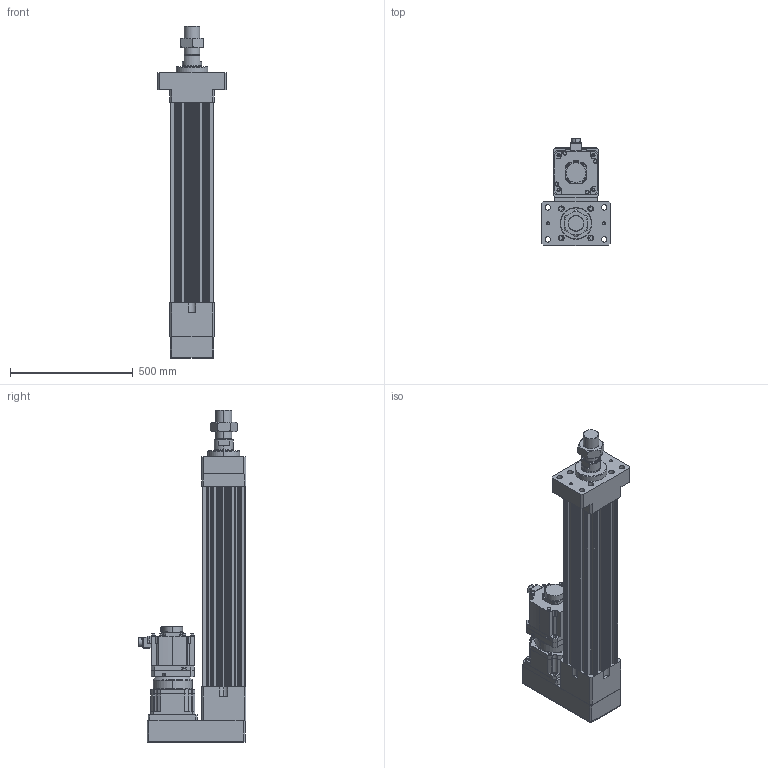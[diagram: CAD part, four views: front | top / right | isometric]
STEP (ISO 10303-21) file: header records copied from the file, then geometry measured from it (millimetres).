
FILE_DESCRIPTION (( 'STEP AP203' ), '1' );
FILE_NAME ('HES180HS-P500-W050G00-M-FMA.STEP', '2023-02-01T08:18:25', ( 'tms' ), ( '' ), 'SwSTEP 2.0', 'SolidWorks 2013', '' );
FILE_SCHEMA (( 'CONFIG_CONTROL_DESIGN' ));
Length unit declared in the file: millimetre
Products named in the file (9): M64X2.0P; AB1801; P0403600401; HES180-P500-G180-FMA; HES180 ROD M ST500; HG-SR502; P1301600001; HES180HS-P500-W050G00-M-FMA; AB180-003[HG-SR702B]
Assembly tree (8 placements, depth 3):
  HES180HS-P500-W050G00-M-FMA
    HES180-P500-G180-FMA
    HES180 ROD M ST500
    M64X2.0P
    AB180-003[HG-SR702B]
      AB1801
      P1301600001
      P0403600401
    HG-SR502
Bounding box: 280 x 438.85 x 1352 mm (x, y, z)
Volume: 30476221 mm3; surface area: 2625049.8 mm2
Topology: 4 solids, 19 shells, 1431 faces, 3715 edges, 2410 vertices
Faces by surface type: cylinder 663, plane 555, cone 146, bspline 63, torus 4
Entity records: 52578 total; most frequent: CARTESIAN_POINT 15982, DIRECTION 7693, ORIENTED_EDGE 7330, EDGE_CURVE 3689, AXIS2_PLACEMENT_3D 2901, VERTEX_POINT 2410, VECTOR 1891, LINE 1891
